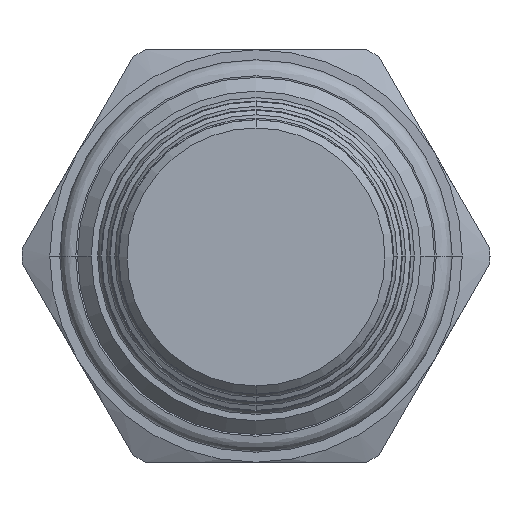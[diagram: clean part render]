
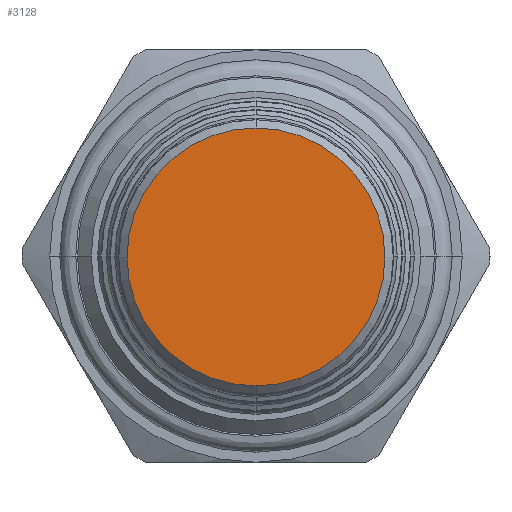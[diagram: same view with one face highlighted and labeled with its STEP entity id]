
A CAD part, front view. The second image highlights one B-rep face of the part: STEP entity #3128.
In plain terms, the highlighted planar face has unit normal (0, -1, 0).
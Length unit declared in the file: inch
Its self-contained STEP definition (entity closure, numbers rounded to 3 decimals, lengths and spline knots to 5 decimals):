
#1353=CARTESIAN_POINT('',(0.,-4.0037,-0.0035));
#1354=DIRECTION('',(0.,-1.,0.));
#1355=DIRECTION('',(0.,0.,-1.));
#1356=AXIS2_PLACEMENT_3D('',#1353,#1354,#1355);
#1358=CARTESIAN_POINT('',(0.,-4.0037,-0.0035));
#1359=DIRECTION('',(0.,1.,0.));
#1360=DIRECTION('',(0.,0.,-1.));
#1361=AXIS2_PLACEMENT_3D('',#1358,#1359,#1360);
#1416=CARTESIAN_POINT('',(0.,-4.0037,-0.4725));
#1418=VERTEX_POINT('',#1416);
#1420=CARTESIAN_POINT('',(0.,-4.0037,0.4655));
#1422=VERTEX_POINT('',#1420);
#3119=CARTESIAN_POINT('',(0.,-4.0037,0.));
#3120=DIRECTION('',(0.,-1.,0.));
#3121=DIRECTION('',(0.,0.,1.));
#3122=AXIS2_PLACEMENT_3D('',#3119,#3120,#3121);
#3123=PLANE('',#3122);
#3124=ORIENTED_EDGE('',*,*,#3098,.F.);
#3125=ORIENTED_EDGE('',*,*,#3114,.T.);
#3126=EDGE_LOOP('',(#3124,#3125));
#3127=FACE_OUTER_BOUND('',#3126,.F.);
#3128=ADVANCED_FACE('',(#3127),#3123,.T.);
#1357=CIRCLE('',#1356,0.469);
#1362=CIRCLE('',#1361,0.469);
#3098=EDGE_CURVE('',#1418,#1422,#1357,.T.);
#3114=EDGE_CURVE('',#1418,#1422,#1362,.T.);
